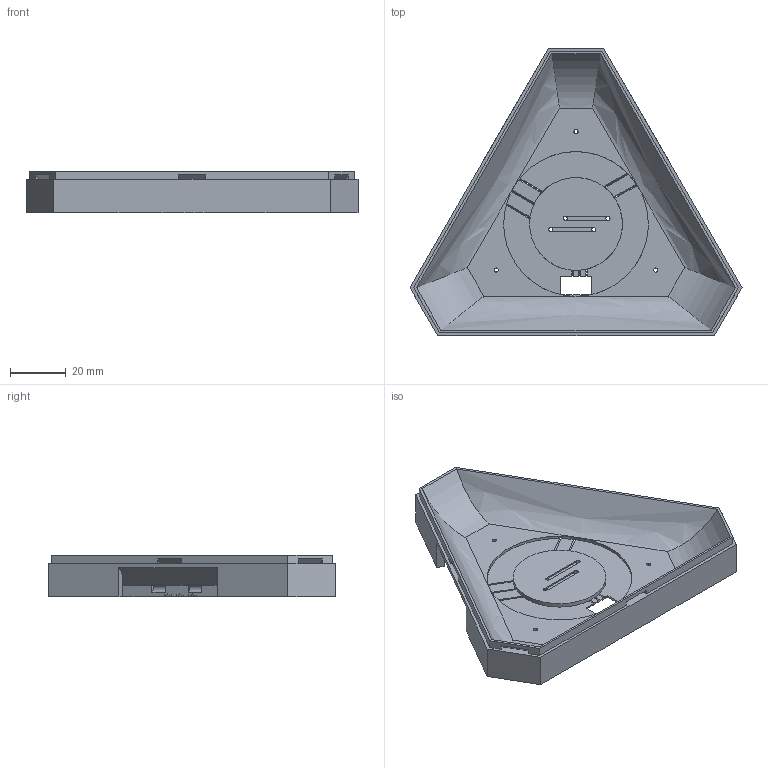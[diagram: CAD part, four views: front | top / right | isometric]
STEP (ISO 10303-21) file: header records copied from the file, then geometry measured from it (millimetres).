
FILE_DESCRIPTION(/* description */ (''),/* implementation_level */ '2;1');
FILE_NAME(/* name */ 'led-tile-start',/* time_stamp */ '2022-10-23T21:47:06+02:00',/* author */ (''),/* organization */ (''),/* preprocessor_version */ 'ST-DEVELOPER v10',/* originating_system */ '',/* authorisation */ '');
FILE_SCHEMA (('CONFIG_CONTROL_DESIGN'));
Length unit declared in the file: millimetre
Products named in the file (1): 1
Bounding box: 118.77 x 102.86 x 15 mm (x, y, z)
Volume: 33672.5 mm3; surface area: 25029.5 mm2
Topology: 1 solids, 1 shells, 377 faces, 1178 edges, 757 vertices
Faces by surface type: plane 209, bspline 168
Entity records: 15381 total; most frequent: CARTESIAN_POINT 8300, ORIENTED_EDGE 2288, EDGE_CURVE 1144, B_SPLINE_CURVE_WITH_KNOTS 917, VERTEX_POINT 757, EDGE_LOOP 391, ADVANCED_FACE 377, FACE_OUTER_BOUND 377
